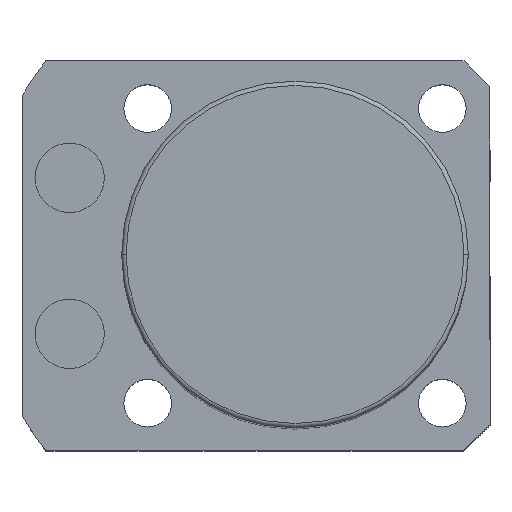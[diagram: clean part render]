
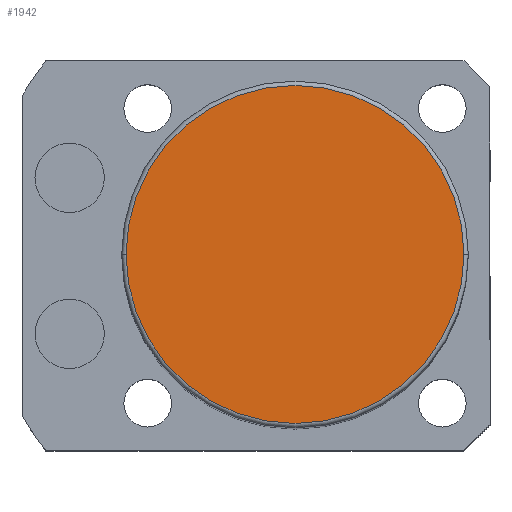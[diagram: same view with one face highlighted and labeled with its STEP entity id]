
A CAD part, top view. The second image highlights one B-rep face of the part: STEP entity #1942.
In plain terms, the highlighted planar face has unit normal (0, 0, 1).
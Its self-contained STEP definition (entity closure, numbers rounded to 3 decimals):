
#494 = ORIENTED_EDGE ( 'NONE', *, *, #2156, .T. ) ;
#695 = AXIS2_PLACEMENT_3D ( 'NONE', #1395, #2634, #2406 ) ;
#722 = DIRECTION ( 'NONE',  ( 1., 0., 0. ) ) ;
#887 = EDGE_LOOP ( 'NONE', ( #494, #2501 ) ) ;
#1111 = PLANE ( 'NONE',  #1809 ) ;
#1210 = EDGE_CURVE ( 'NONE', #1493, #1295, #1808, .T. ) ;
#1252 = FACE_OUTER_BOUND ( 'NONE', #887, .T. ) ;
#1295 = VERTEX_POINT ( 'NONE', #1697 ) ;
#1334 = DIRECTION ( 'NONE',  ( 0., 0., 1. ) ) ;
#1395 = CARTESIAN_POINT ( 'NONE',  ( 0., 0., 103.5 ) ) ;
#1493 = VERTEX_POINT ( 'NONE', #2651 ) ;
#1697 = CARTESIAN_POINT ( 'NONE',  ( 19.5, 0., 103.5 ) ) ;
#1808 = CIRCLE ( 'NONE', #2386, 19.5 ) ;
#1809 = AXIS2_PLACEMENT_3D ( 'NONE', #2581, #1334, #722 ) ;
#1942 = ADVANCED_FACE ( 'NONE', ( #1252 ), #1111, .T. ) ;
#2116 = CARTESIAN_POINT ( 'NONE',  ( 0., 0., 103.5 ) ) ;
#2133 = CIRCLE ( 'NONE', #695, 19.5 ) ;
#2156 = EDGE_CURVE ( 'NONE', #1295, #1493, #2133, .T. ) ;
#2317 = DIRECTION ( 'NONE',  ( 1., 0., 0. ) ) ;
#2386 = AXIS2_PLACEMENT_3D ( 'NONE', #2116, #2537, #2317 ) ;
#2406 = DIRECTION ( 'NONE',  ( 1., 0., 0. ) ) ;
#2501 = ORIENTED_EDGE ( 'NONE', *, *, #1210, .T. ) ;
#2537 = DIRECTION ( 'NONE',  ( 0., 0., 1. ) ) ;
#2581 = CARTESIAN_POINT ( 'NONE',  ( 0., 0., 103.5 ) ) ;
#2634 = DIRECTION ( 'NONE',  ( 0., 0., 1. ) ) ;
#2651 = CARTESIAN_POINT ( 'NONE',  ( -19.5, 0., 103.5 ) ) ;
